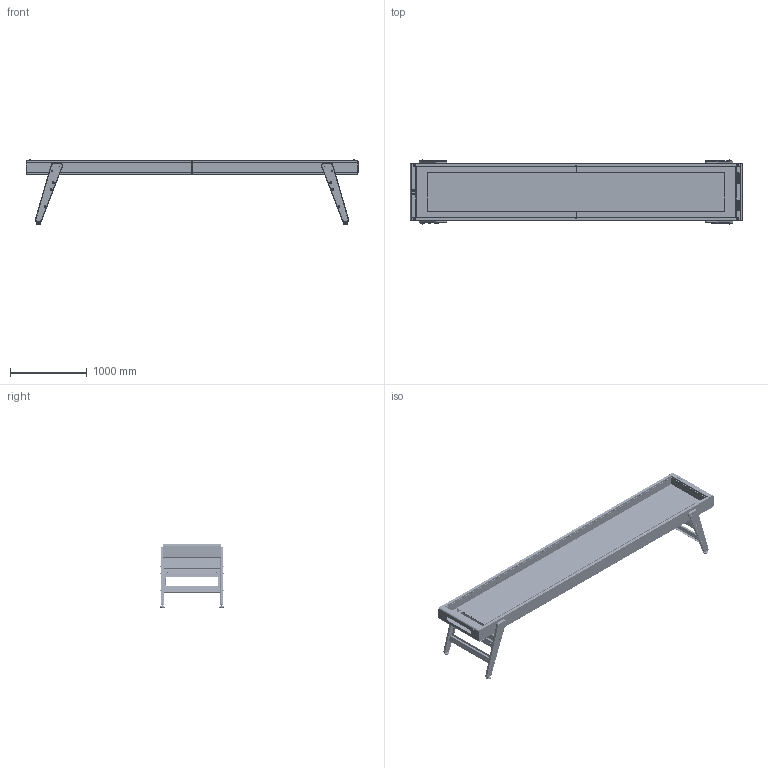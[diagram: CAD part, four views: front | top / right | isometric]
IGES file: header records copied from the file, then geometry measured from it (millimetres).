
Start section: START RECORD GO HERE.
Global section: file name: Track_14Ft.igs; native system: DASSAULT SYSTEMES CATIA Unofficial Packaging Version - www.3ds.com; preprocessor: UnofficialPkgVersion_5.27.0.0.10-19-2016.20.00; author: RAFA; organization: RAFA-PC; date: 20250513.103206; units: millimetre
Bounding box: 4318 x 833.4 x 838.14 mm (x, y, z)
Surface area: 27457240.5 mm2 (no closed solid volume)
Topology: 0 solids, 0 shells, 5916 faces, 28722 edges, 28720 vertices
Faces by surface type: plane 3164, revolution 2328, bspline 424
